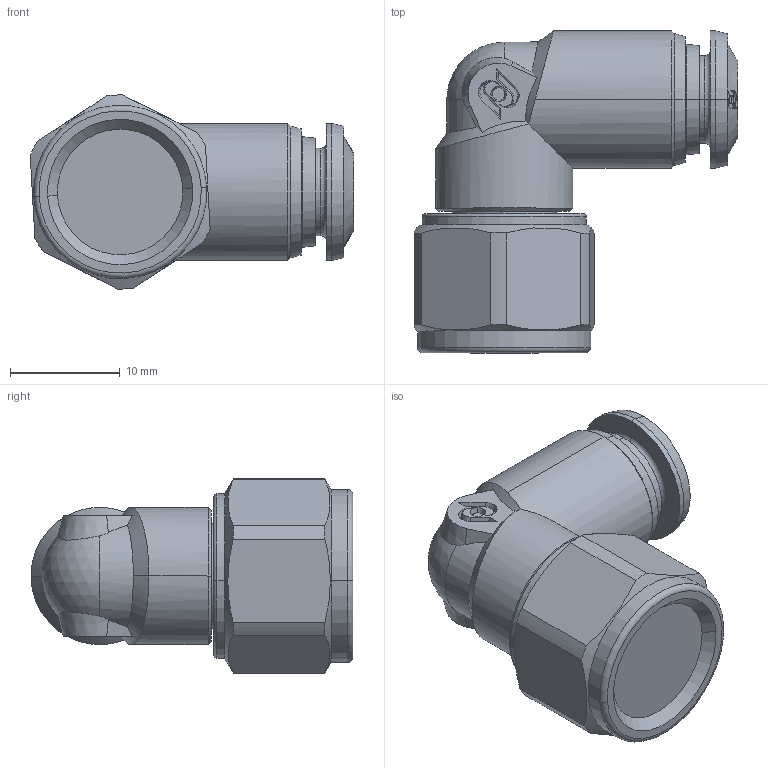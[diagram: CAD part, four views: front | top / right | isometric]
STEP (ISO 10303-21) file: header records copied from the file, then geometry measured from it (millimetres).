
FILE_DESCRIPTION (( 'STEP AP214' ), '1' );
FILE_NAME ('5010600004.step', '2012-10-01T16:44:03', ( '' ), ( '' ), 'SwSTEP 2.0', 'SolidWorks 2012', '' );
FILE_SCHEMA (( 'AUTOMOTIVE_DESIGN' ));
Length unit declared in the file: millimetre
Products named in the file (1): 5010600004
Bounding box: 29.5 x 29.35 x 17.69 mm (x, y, z)
Volume: 5945.1 mm3; surface area: 2549.2 mm2
Topology: 1 solids, 3 shells, 199 faces, 490 edges, 317 vertices
Faces by surface type: cone 60, bspline 51, plane 46, cylinder 31, torus 10, sphere 1
Entity records: 11433 total; most frequent: CARTESIAN_POINT 5142, ORIENTED_EDGE 980, DIRECTION 685, EDGE_CURVE 490, VERTEX_POINT 317, AXIS2_PLACEMENT_3D 281, B_SPLINE_CURVE_WITH_KNOTS 225, EDGE_LOOP 219
